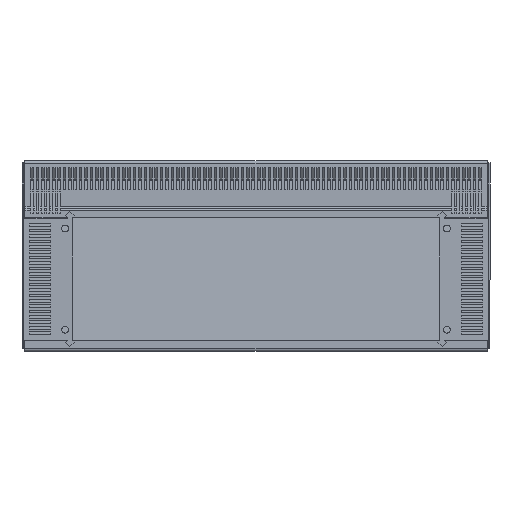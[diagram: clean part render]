
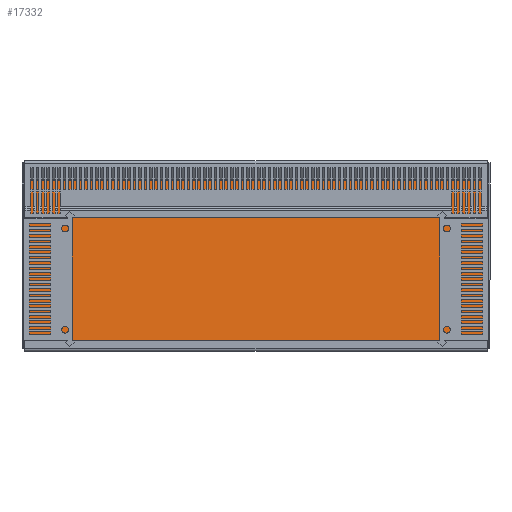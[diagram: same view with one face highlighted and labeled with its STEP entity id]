
A CAD part, front view. The second image highlights one B-rep face of the part: STEP entity #17332.
In plain terms, the highlighted planar face has unit normal (0, -0.995, 0.096).
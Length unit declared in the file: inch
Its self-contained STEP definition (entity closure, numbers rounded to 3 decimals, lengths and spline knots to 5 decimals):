
#5171 = AXIS2_PLACEMENT_3D ( 'NONE', #20110, #20115, #20116 ) ;
#7738 = FACE_OUTER_BOUND ( 'NONE', #23822, .T. ) ;
#11342 = CARTESIAN_POINT ( 'NONE',  ( -10.7125, 2.41779, 7.92233 ) ) ;
#11369 = CARTESIAN_POINT ( 'NONE',  ( 10.7125, 1.66571, 0.1252 ) ) ;
#11408 = CARTESIAN_POINT ( 'NONE',  ( -10.7125, 1.66571, 0.1252 ) ) ;
#11497 = CARTESIAN_POINT ( 'NONE',  ( 10.7125, 2.41779, 7.92233 ) ) ;
#11638 = CARTESIAN_POINT ( 'NONE',  ( 10.7125, 2.41779, 7.92233 ) ) ;
#11639 = DIRECTION ( 'NONE',  ( -1., 0., 0. ) ) ;
#11646 = CARTESIAN_POINT ( 'NONE',  ( 10.7125, 1.65437, 0.00768 ) ) ;
#11647 = DIRECTION ( 'NONE',  ( 0., 0.096, 0.995 ) ) ;
#11648 = CARTESIAN_POINT ( 'NONE',  ( 10.7125, 1.66571, 0.1252 ) ) ;
#11649 = DIRECTION ( 'NONE',  ( -1., 0., 0. ) ) ;
#11650 = CARTESIAN_POINT ( 'NONE',  ( -10.7125, 1.65437, 0.00768 ) ) ;
#11651 = DIRECTION ( 'NONE',  ( 0., 0.096, 0.995 ) ) ;
#17332 = ADVANCED_FACE ( 'NONE', ( #7738 ), #20112, .T. ) ;
#18487 = ORIENTED_EDGE ( 'NONE', *, *, #21785, .T. ) ;
#18488 = ORIENTED_EDGE ( 'NONE', *, *, #21781, .T. ) ;
#18562 = ORIENTED_EDGE ( 'NONE', *, *, #21787, .F. ) ;
#18563 = ORIENTED_EDGE ( 'NONE', *, *, #21786, .F. ) ;
#18650 = LINE ( 'NONE', #11638, #18651 ) ;
#18651 = VECTOR ( 'NONE', #11639, 39.37008 ) ;
#18658 = LINE ( 'NONE', #11646, #18659 ) ;
#18659 = VECTOR ( 'NONE', #11647, 39.37008 ) ;
#18660 = LINE ( 'NONE', #11648, #18661 ) ;
#18661 = VECTOR ( 'NONE', #11649, 39.37008 ) ;
#18662 = LINE ( 'NONE', #11650, #18663 ) ;
#18663 = VECTOR ( 'NONE', #11651, 39.37008 ) ;
#20110 = CARTESIAN_POINT ( 'NONE',  ( 10.7125, 1.65437, 0.00768 ) ) ;
#20112 = PLANE ( 'NONE',  #5171 ) ;
#20115 = DIRECTION ( 'NONE',  ( 0., -0.995, 0.096 ) ) ;
#20116 = DIRECTION ( 'NONE',  ( 0., -0.096, -0.995 ) ) ;
#21283 = VERTEX_POINT ( 'NONE', #11342 ) ;
#21355 = VERTEX_POINT ( 'NONE', #11369 ) ;
#21447 = VERTEX_POINT ( 'NONE', #11408 ) ;
#21536 = VERTEX_POINT ( 'NONE', #11497 ) ;
#21781 = EDGE_CURVE ( 'NONE', #21536, #21283, #18650, .T. ) ;
#21785 = EDGE_CURVE ( 'NONE', #21355, #21536, #18658, .T. ) ;
#21786 = EDGE_CURVE ( 'NONE', #21355, #21447, #18660, .T. ) ;
#21787 = EDGE_CURVE ( 'NONE', #21447, #21283, #18662, .T. ) ;
#23822 = EDGE_LOOP ( 'NONE', ( #18562, #18563, #18487, #18488 ) ) ;
